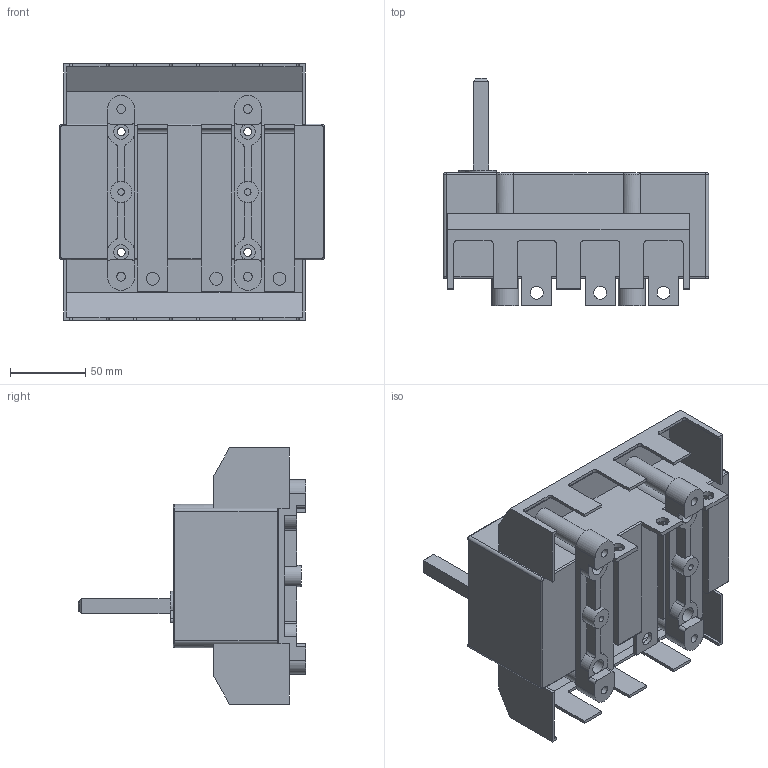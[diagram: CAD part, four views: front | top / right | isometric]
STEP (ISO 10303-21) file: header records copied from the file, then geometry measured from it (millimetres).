
FILE_DESCRIPTION(/* description */ (''),/* implementation_level */ '2;1');
FILE_NAME(/* name */ 'RA160 P3 A z oslona zaciskow.stp',/* time_stamp */ '2021-08-17T13:57:44+02:00',/* author */ (''),/* organization */ (''),/* preprocessor_version */ 'ST-DEVELOPER v18.1',/* originating_system */ 'SIEMENS PLM Software NX 1965',/* authorisation */ '');
FILE_SCHEMA (('AUTOMOTIVE_DESIGN { 1 0 10303 214 3 1 1 1 }'));
Length unit declared in the file: millimetre
Products named in the file (1): RA160 P3 A z oslona zaciskow_stp
Bounding box: 176 x 151 x 169.8 mm (x, y, z)
Volume: 1211830.3 mm3; surface area: 158068.5 mm2
Topology: 1 solids, 1 shells, 307 faces, 871 edges, 564 vertices
Faces by surface type: plane 170, cylinder 125, torus 7, bspline 5
Full cylindrical faces by diameter (mm): 4.3 x2, 5.3 x4, 5.8 x4, 8.5 x6, 10 x12, 13 x4, 14 x2
Entity records: 9842 total; most frequent: CARTESIAN_POINT 1828, DIRECTION 1679, ORIENTED_EDGE 1634, EDGE_CURVE 817, AXIS2_PLACEMENT_3D 575, VERTEX_POINT 544, LINE 529, VECTOR 529
